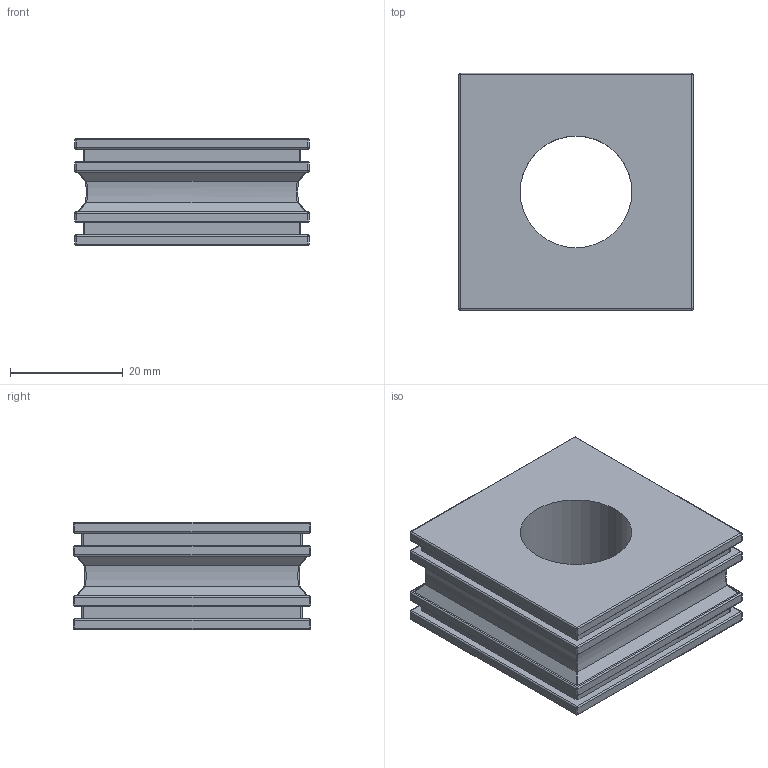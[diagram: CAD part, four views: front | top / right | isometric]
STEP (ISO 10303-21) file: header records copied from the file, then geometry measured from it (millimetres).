
FILE_DESCRIPTION (( 'STEP AP203' ), '1' );
FILE_NAME ('041220 KT20.STEP', '2023-03-07T06:38:07', ( '' ), ( '' ), 'SwSTEP 2.0', 'SolidWorks 2016', '' );
FILE_SCHEMA (( 'CONFIG_CONTROL_DESIGN' ));
Length unit declared in the file: millimetre
Products named in the file (1): 041220 KT20
Bounding box: 41.5 x 42 x 19 mm (x, y, z)
Volume: 24388.3 mm3; surface area: 8237.4 mm2
Topology: 1 solids, 1 shells, 193 faces, 474 edges, 262 vertices
Faces by surface type: plane 77, cylinder 71, bspline 45
Entity records: 6899 total; most frequent: CARTESIAN_POINT 2727, ORIENTED_EDGE 884, DIRECTION 792, EDGE_CURVE 442, AXIS2_PLACEMENT_3D 267, VERTEX_POINT 262, VECTOR 258, LINE 258
